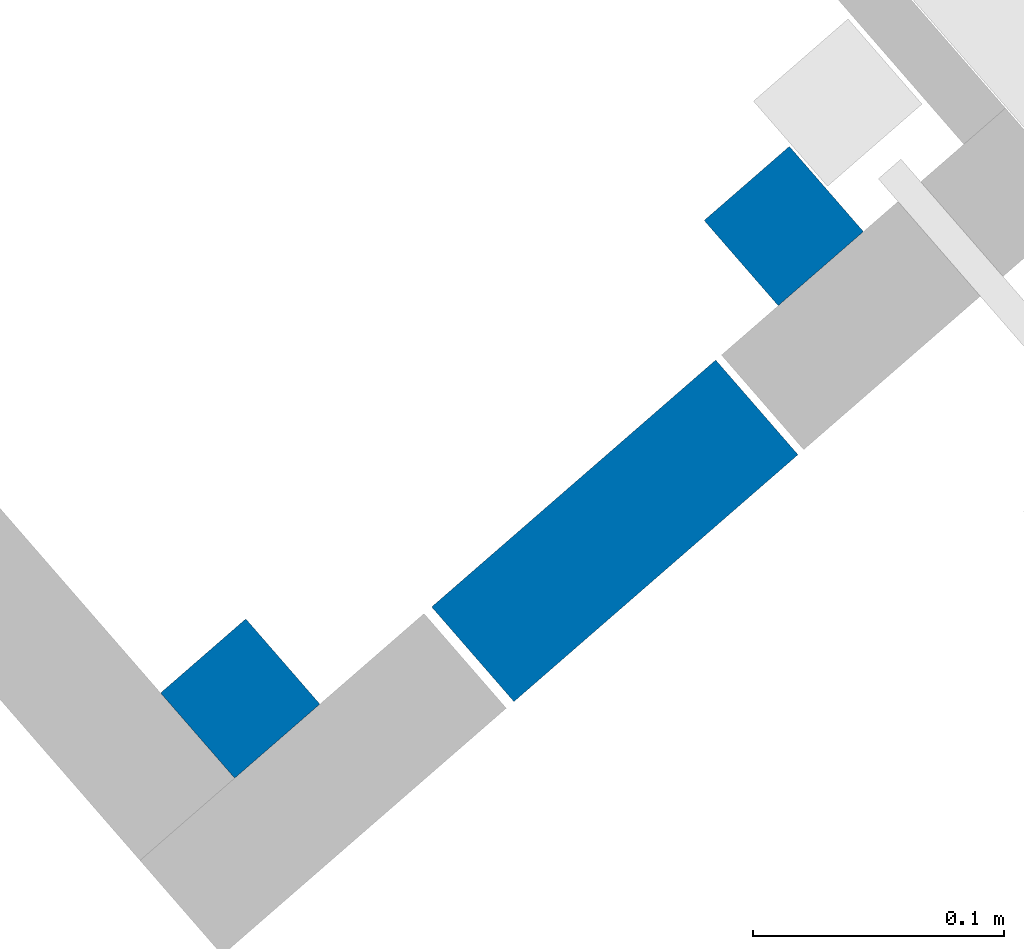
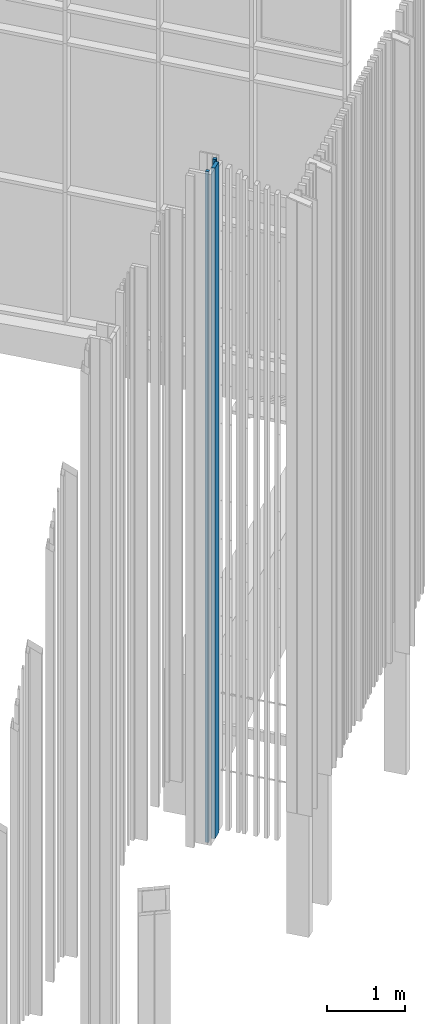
# One storey, part 22 of 390: 3 walls.
"""IFC2X3 building model written with IfcOpenShell, lengths in millimetres."""

import ifcopenshell
import ifcopenshell.guid

model = None  # the IFC model being written
_history = None  # IfcOwnerHistory: only IFC2X3 demands one
_inside = {}  # id of a spatial element -> (the spatial element, [elements in it])
_under = {}  # id of a project, library or spatial element -> (it, [spatial elements below it])
_declared = {}  # id of a project -> (the project, [libraries it declares])
_typed = {}  # id of a type object -> (the type object, [elements of that type])
_made_of = {}  # id of a material, layer set ... -> (it, [elements and type objects made of it])


def new_model(schema):
    """Start an empty IFC model of exactly this schema.

    Asked for "IFC4X3", IfcOpenShell would pick the latest addendum, in which some entities
    have other attributes; the version numbers below select the first issue.
    IFC2X3 requires an IfcOwnerHistory on every rooted entity: one is made here for all.
    """
    global model, _history
    if schema == "IFC4X3":
        model = ifcopenshell.file(schema_version=(4, 3, 0, 0))
    else:
        model = ifcopenshell.file(schema=schema)
    _inside.clear()
    _under.clear()
    _declared.clear()
    _typed.clear()
    _made_of.clear()
    _history = None
    if model.schema == "IFC2X3":
        org = make("IfcOrganization", Name="unknown")
        user = make(
            "IfcPersonAndOrganization",
            ThePerson=make("IfcPerson", FamilyName="unknown"),
            TheOrganization=org,
        )
        app = make(
            "IfcApplication",
            ApplicationDeveloper=org,
            Version="unknown",
            ApplicationFullName="unknown",
            ApplicationIdentifier="unknown",
        )
        _history = make(
            "IfcOwnerHistory",
            OwningUser=user,
            OwningApplication=app,
            ChangeAction="ADDED",
            CreationDate=0,
        )
    return model


def make(cls, **values):
    """One entity of the class cls with the attributes given. An attribute that is None is left unset."""
    return model.create_entity(
        cls, **{name: value for name, value in values.items() if value is not None}
    )


def entity(cls, *values):
    """Any entity or typed value of the class cls, its attributes in the order of the schema. None: left unset."""
    e = model.create_entity(cls)
    for i, value in enumerate(values):
        if value is not None:
            e[i] = value
    return e


def rooted(cls, **values):
    """An entity with a GlobalId (a new one), such as an element, a storey or a relation."""
    return make(cls, GlobalId=ifcopenshell.guid.new(), OwnerHistory=_history, **values)


def si_unit(unit_type, name, prefix=None):
    """IfcSIUnit, for example si_unit("LENGTHUNIT", "METRE", prefix="MILLI")."""
    return make("IfcSIUnit", UnitType=unit_type, Prefix=prefix, Name=name)


def converted_unit(unit_type, name, factor, base, dimensions=None, offset=None):
    """IfcConversionBasedUnit, such as the inch: factor (a typed value) times the base unit."""
    return make(
        "IfcConversionBasedUnit"
        if offset is None
        else "IfcConversionBasedUnitWithOffset",
        ConversionOffset=offset,
        Dimensions=None
        if dimensions is None
        else entity("IfcDimensionalExponents", *dimensions),
        UnitType=unit_type,
        Name=name,
        ConversionFactor=make(
            "IfcMeasureWithUnit", ValueComponent=factor, UnitComponent=base
        ),
    )


def derived_unit(unit_type, elements):
    """IfcDerivedUnit: a product of units, each with its exponent."""
    return make(
        "IfcDerivedUnit",
        Elements=[
            make("IfcDerivedUnitElement", Unit=unit, Exponent=power)
            for unit, power in elements
        ],
        UnitType=unit_type,
    )


def money_unit(currency):
    """IfcMonetaryUnit."""
    return make("IfcMonetaryUnit", Currency=currency)


def assignment(units):
    """IfcUnitAssignment: the units of a project."""
    return None if units is None else make("IfcUnitAssignment", Units=units)


def point(xyz):
    """IfcCartesianPoint."""
    return None if xyz is None else make("IfcCartesianPoint", Coordinates=xyz)


def direction(xyz):
    """IfcDirection."""
    return None if xyz is None else make("IfcDirection", DirectionRatios=xyz)


def frame(location, z_axis=None, x_axis=None):
    """IfcAxis2Placement3D, a coordinate frame: its origin and axes. An axis left out is left unset."""
    return make(
        "IfcAxis2Placement3D",
        Location=point(location),
        Axis=direction(z_axis),
        RefDirection=direction(x_axis),
    )


def frame_2d(location, x_axis=None):
    """IfcAxis2Placement2D, a coordinate frame in the plane: its origin and x axis."""
    return make(
        "IfcAxis2Placement2D", Location=point(location), RefDirection=direction(x_axis)
    )


def origin_with_axes():
    """The frame at (0, 0, 0) with the z axis (0, 0, 1) and the x axis (1, 0, 0) written out."""
    return frame((0.0, 0.0, 0.0), z_axis=(0.0, 0.0, 1.0), x_axis=(1.0, 0.0, 0.0))


def origin_2d_with_axis():
    """The frame at (0, 0) in the plane with the x axis (1, 0) written out."""
    return frame_2d((0.0, 0.0), x_axis=(1.0, 0.0))


def place(relative_to, where):
    """IfcLocalPlacement: puts the frame where relative to a parent placement (None: the world)."""
    return make(
        "IfcLocalPlacement", PlacementRelTo=relative_to, RelativePlacement=where
    )


def context(
    kind, dimensions, precision=None, world=None, true_north=None, identifier=None
):
    """IfcGeometricRepresentationContext, for example the 3D "Model" context."""
    return make(
        "IfcGeometricRepresentationContext",
        ContextIdentifier=identifier,
        ContextType=kind,
        CoordinateSpaceDimension=dimensions,
        Precision=precision,
        WorldCoordinateSystem=world,
        TrueNorth=true_north,
    )


def subcontext(parent, identifier, kind, view, scale=None):
    """IfcGeometricRepresentationSubContext, for example "Body" below "Model"."""
    return make(
        "IfcGeometricRepresentationSubContext",
        ContextIdentifier=identifier,
        ContextType=kind,
        ParentContext=parent,
        TargetScale=scale,
        TargetView=view,
    )


def project(units=None, contexts=None):
    """IfcProject with its units and contexts."""
    return rooted(
        "IfcProject",
        Name="project",
        RepresentationContexts=contexts,
        UnitsInContext=assignment(units),
    )


def spatial(cls, under=None, at=None, **own):
    """A site, building, storey or space (cls), placed at a placement, below another one or the project."""
    s = rooted(cls, ObjectPlacement=at, **own)
    if under is not None:
        _under.setdefault(under.id(), (under, []))[1].append(s)
    return s


def profile(cls, at=None, kind="AREA", **sizes):
    """A parametric profile (cls). Its sizes go by their IFC names, for example OverallWidth=200.0."""
    return make(cls, ProfileType=kind, Position=at, **sizes)


def rectangle(**sizes):
    """IfcRectangleProfileDef."""
    return profile("IfcRectangleProfileDef", **sizes)


def extrude(swept, where, along, depth):
    """IfcExtrudedAreaSolid: the profile swept, set in the frame where, extruded along a direction by depth."""
    return make(
        "IfcExtrudedAreaSolid",
        SweptArea=swept,
        Position=where,
        ExtrudedDirection=direction(along),
        Depth=depth,
    )


def shape(context_of_items, identifier, shape_type, items):
    """IfcShapeRepresentation: the items that make up one representation, for example the "Body"."""
    return make(
        "IfcShapeRepresentation",
        ContextOfItems=context_of_items,
        RepresentationIdentifier=identifier,
        RepresentationType=shape_type,
        Items=items,
    )


def material(Name=None, Category=None):
    """IfcMaterial."""
    return make("IfcMaterial", Name=Name, Category=Category)


def made_of(thing, what):
    """Note that an element or type object is made of a material, layer set ...; save() writes the relation."""
    if what is not None:
        _made_of.setdefault(what.id(), (what, []))[1].append(thing)
    return thing


def type_object(cls, material=None, **own):
    """A type object (cls), such as IfcWallType, which elements share."""
    return made_of(rooted(cls, **own), material)


def element(
    cls,
    number,
    at=None,
    inside=None,
    cuts=None,
    type_object=None,
    material=None,
    context=None,
    identifier="Body",
    shape_type=None,
    held_by="IfcProductDefinitionShape",
    body=None,
    shapes=None,
    **own,
):
    """One element of the class cls, such as IfcWall. Its Tag is "e" and its number.

    at: its placement. inside: the storey or other place that contains it. cuts: it is an
    opening in that element (IfcRelVoidsElement). A single representation is given by context,
    identifier, shape_type and body (its items); several are given by shapes. held_by: the class
    of the entity that holds the representations. save() writes the other relations.
    """
    e = rooted(cls, Tag="e%d" % number, ObjectPlacement=at, **own)
    if body is not None:
        shapes = [shape(context, identifier, shape_type, body)]
    if shapes is not None:
        e.Representation = make(held_by, Representations=shapes)
    if inside is not None:
        _inside.setdefault(inside.id(), (inside, []))[1].append(e)
    if cuts is not None:
        rooted(
            "IfcRelVoidsElement", RelatingBuildingElement=cuts, RelatedOpeningElement=e
        )
    if type_object is not None:
        _typed.setdefault(type_object.id(), (type_object, []))[1].append(e)
    return made_of(e, material)


def aggregate(whole, parts):
    """IfcRelAggregates: a whole, such as a stair, and the parts it consists of."""
    return rooted("IfcRelAggregates", RelatingObject=whole, RelatedObjects=parts)


def save(model, path):
    """Write the relations noted so far, then the file.

    IfcRelAggregates (storeys below a building ...), IfcRelContainedInSpatialStructure (elements
    in a storey), IfcRelDefinesByType, IfcRelAssociatesMaterial and IfcRelDeclares: one each for
    every whole, place, type object, material and project.
    """
    for whole, parts in _under.values():
        aggregate(whole, parts)
    for where, things in _inside.values():
        rooted(
            "IfcRelContainedInSpatialStructure",
            RelatedElements=things,
            RelatingStructure=where,
        )
    for kind, things in _typed.values():
        rooted("IfcRelDefinesByType", RelatedObjects=things, RelatingType=kind)
    for what, things in _made_of.values():
        rooted("IfcRelAssociatesMaterial", RelatedObjects=things, RelatingMaterial=what)
    for by, libraries in _declared.values():
        rooted("IfcRelDeclares", RelatingContext=by, RelatedDefinitions=libraries)
    model.write(path)


model = new_model("IFC2X3")

# Units and contexts
model_context = context("Model", 3, precision=1e-05, world=origin_with_axes(), true_north=direction((0.0, 1.0)))
body_context = subcontext(model_context, "Body", "Model", "MODEL_VIEW")
ifc_project = project(units=[si_unit("LENGTHUNIT", "METRE", prefix="MILLI"), si_unit("AREAUNIT", "SQUARE_METRE"), si_unit("VOLUMEUNIT", "CUBIC_METRE"), converted_unit("PLANEANGLEUNIT", "DEGREE", entity("IfcPlaneAngleMeasure", 0.0174532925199), si_unit("PLANEANGLEUNIT", "RADIAN"), dimensions=[0, 0, 0, 0, 0, 0, 0]), si_unit("SOLIDANGLEUNIT", "STERADIAN"), money_unit("EUR"), converted_unit("TIMEUNIT", "Year", entity("IfcTimeMeasure", 31556926.0), si_unit("TIMEUNIT", "SECOND"), dimensions=[0, 0, 1, 0, 0, 0, 0]), si_unit("MASSUNIT", "GRAM", prefix="KILO"), si_unit("THERMODYNAMICTEMPERATUREUNIT", "DEGREE_CELSIUS"), si_unit("LUMINOUSINTENSITYUNIT", "LUMEN"), si_unit("ENERGYUNIT", "JOULE", prefix="MEGA"), derived_unit("THERMALCONDUCTANCEUNIT", [(si_unit("POWERUNIT", "WATT"), 1), (si_unit("LENGTHUNIT", "METRE"), -1), (si_unit("THERMODYNAMICTEMPERATUREUNIT", "KELVIN"), -1)]), derived_unit("SPECIFICHEATCAPACITYUNIT", [(si_unit("ENERGYUNIT", "JOULE"), 1), (si_unit("MASSUNIT", "GRAM", prefix="KILO"), -1), (si_unit("THERMODYNAMICTEMPERATUREUNIT", "KELVIN"), -1)]), derived_unit("MASSDENSITYUNIT", [(si_unit("MASSUNIT", "GRAM", prefix="KILO"), 1), (si_unit("VOLUMEUNIT", "CUBIC_METRE"), -1)])], contexts=[model_context])

# Site, building, storey
site_placement = place(None, origin_with_axes())
site = spatial("IfcSite", under=ifc_project, at=site_placement, Name="Site", CompositionType="ELEMENT")
building_placement = place(site_placement, origin_with_axes())
building = spatial("IfcBuilding", under=site, at=building_placement, Name="Building", CompositionType="ELEMENT")
storey_placement = place(building_placement, origin_with_axes())
storey = spatial("IfcBuildingStorey", under=building, at=storey_placement, Name="1 korrus", CompositionType="ELEMENT", Elevation=0.0)

# Walls
ifc_material = material(Name="Site specified")
wall_type = type_object("IfcWallType", Name="Puitfassaadi ribisik", PredefinedType="NOTDEFINED")
for number, where, z_axis, x_axis, name in (
    (1, (172637.324765, 94427.0133309, -597.999974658), (0.0, 0.0, 1.0), (-0.754709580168, -0.656059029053, 0.0), "Site specified"),
    (2, (172420.723307, 94238.7245558, -597.999974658), (0.0, 0.0, 1.0), (-0.754709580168, -0.656059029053, 0.0), "Site specified"),
):
    element("IfcWall", number, at=place(storey_placement, frame(where, z_axis=z_axis, x_axis=x_axis)), inside=storey, type_object=wall_type, material=ifc_material, Name=name, context=body_context, shape_type="SweptSolid", body=[
        extrude(rectangle(XDim=45.0000000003, YDim=44.9999999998, at=origin_2d_with_axis()), origin_with_axes(), (0.0, 0.0, 1.0), 10462.9999696),
    ])
wall_placement = place(storey_placement, frame((172569.997984, 94305.5489352, -597.999974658), z_axis=(0.0, 0.0, 1.0), x_axis=(0.656059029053, -0.754709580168, 0.0)))
element("IfcWall", 3, at=wall_placement, inside=storey, type_object=wall_type, material=ifc_material, Name="Site specified", context=body_context, shape_type="SweptSolid", body=[
    extrude(rectangle(XDim=50.0, YDim=150.000000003, at=origin_2d_with_axis()), origin_with_axes(), (0.0, 0.0, 1.0), 10462.9999696),
])

save(model, "model.ifc")
